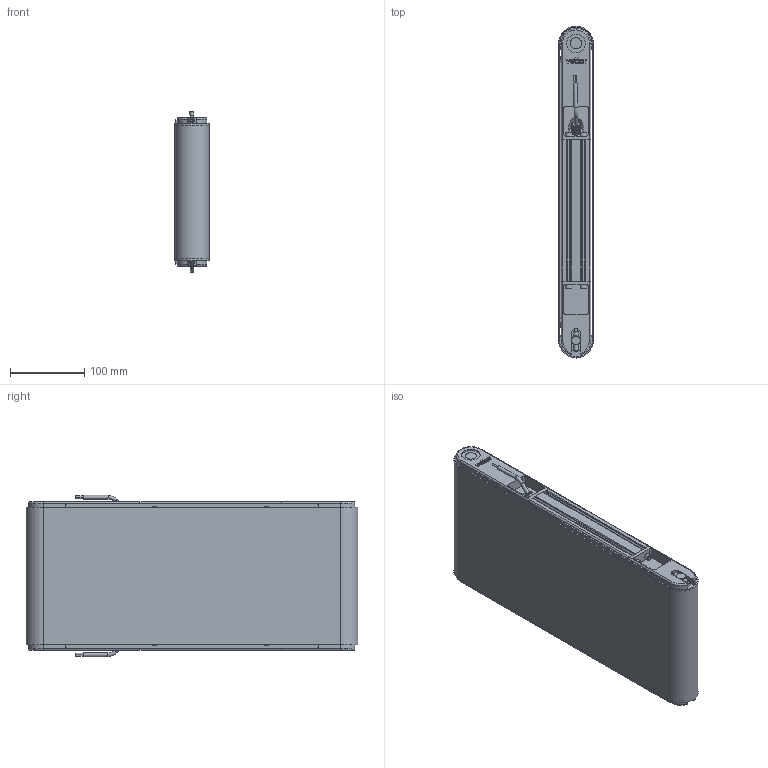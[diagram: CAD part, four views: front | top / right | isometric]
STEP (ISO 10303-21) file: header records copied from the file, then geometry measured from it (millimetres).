
FILE_DESCRIPTION(/* description */ (''),/* implementation_level */ '2;1');
FILE_NAME(/* name */ 'G:\DATEN\CAD\Förderband\Marketing\3D-Modelle (Standard)\FR-40-200\FR-40-200-400-K.stp',/* time_stamp */ '2019-05-08T09:18:05+02:00',/* author */ ('melanie.ochs'),/* organization */ (''),/* preprocessor_version */ 'ST-DEVELOPER v17',/* originating_system */ 'Autodesk Inventor 2019',/* authorisation */ '');
FILE_SCHEMA (('CONFIG_CONTROL_DESIGN'));
Length unit declared in the file: centimetre
Products named in the file (1): FR-40-200-400-K
Bounding box: 46.6 x 446.6 x 217.07 mm (x, y, z)
Volume: 2196464.2 mm3; surface area: 587745.8 mm2
Topology: 7 solids, 25 shells, 1124 faces, 3029 edges, 2003 vertices
Faces by surface type: plane 559, cylinder 328, bspline 124, cone 75, torus 38
Full cylindrical faces by diameter (mm): 2 x4, 4 x6, 4.3 x4, 4.917 x1, 5 x14, 5.5 x8, 6 x4, 6.647 x2, 8 x4, 8.3 x4, 8.5 x8, 8.773 x2, 10 x2, 11 x2, 12 x3, 15 x2, 20 x4, 25 x2, 28 x4
Entity records: 38076 total; most frequent: CARTESIAN_POINT 9220, ORIENTED_EDGE 6034, DIRECTION 5475, EDGE_CURVE 3017, VERTEX_POINT 2003, AXIS2_PLACEMENT_3D 1935, LINE 1605, VECTOR 1605
